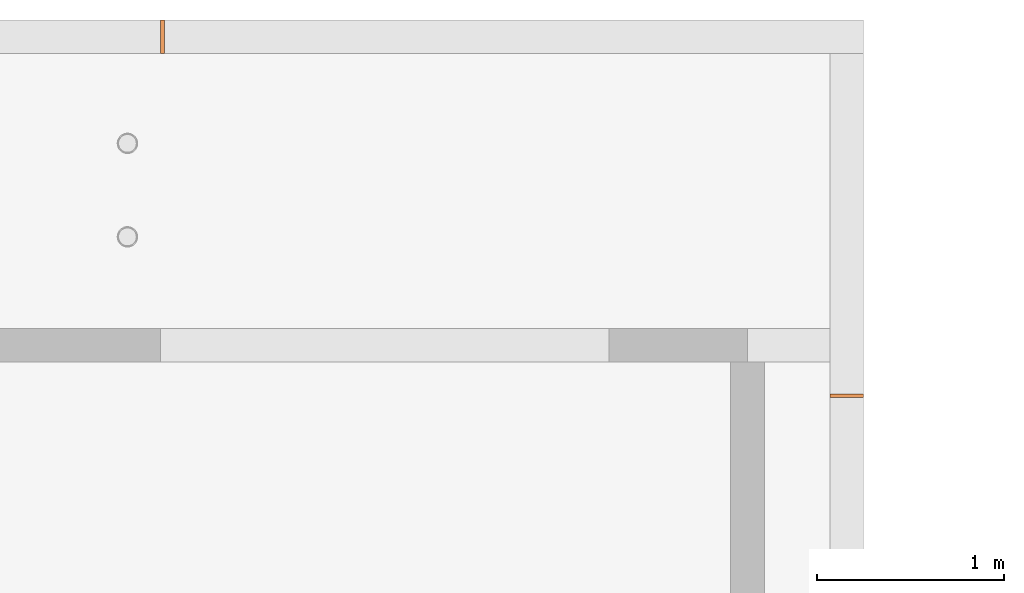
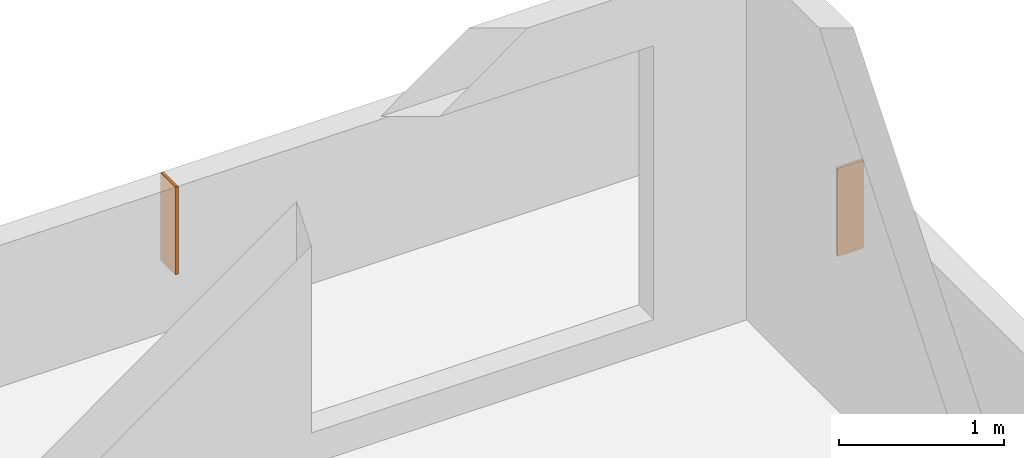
# One storey, part 25 of 28: 2 proxies.
"""IFC2X3 building model written with IfcOpenShell, lengths in centimetres."""

from ifc_helpers import new_model, entity, si_unit, converted_unit, derived_unit, direction, frame, origin, origin_2d_with_axis, place, context, subcontext, project, spatial, rectangle, extrude, source, transform, mapped, material, type_object, type_shapes, element, save


model = new_model("IFC2X3")

# Units and contexts
model_context = context("Model", 3, precision=0.001, world=origin(), true_north=direction((6.12303176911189e-17, 1.0)))
body_context = subcontext(model_context, "Body", "Model", "MODEL_VIEW")
ifc_project = project(units=[si_unit("LENGTHUNIT", "METRE", prefix="CENTI"), si_unit("AREAUNIT", "SQUARE_METRE"), si_unit("VOLUMEUNIT", "CUBIC_METRE"), converted_unit("PLANEANGLEUNIT", "DEGREE", entity("IfcRatioMeasure", 0.0174532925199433), si_unit("PLANEANGLEUNIT", "RADIAN"), dimensions=[0, 0, 0, 0, 0, 0, 0]), si_unit("MASSUNIT", "GRAM", prefix="KILO"), derived_unit("MASSDENSITYUNIT", [(si_unit("MASSUNIT", "GRAM", prefix="KILO"), 1), (si_unit("LENGTHUNIT", "METRE"), -3)]), si_unit("TIMEUNIT", "SECOND"), si_unit("FREQUENCYUNIT", "HERTZ"), si_unit("THERMODYNAMICTEMPERATUREUNIT", "DEGREE_CELSIUS"), derived_unit("THERMALTRANSMITTANCEUNIT", [(si_unit("MASSUNIT", "GRAM", prefix="KILO"), 1), (si_unit("THERMODYNAMICTEMPERATUREUNIT", "KELVIN"), -1), (si_unit("TIMEUNIT", "SECOND"), -3)]), derived_unit("VOLUMETRICFLOWRATEUNIT", [(si_unit("LENGTHUNIT", "METRE"), 3), (si_unit("TIMEUNIT", "SECOND"), -1)]), si_unit("ELECTRICCURRENTUNIT", "AMPERE"), si_unit("ELECTRICVOLTAGEUNIT", "VOLT"), si_unit("POWERUNIT", "WATT"), si_unit("FORCEUNIT", "NEWTON"), si_unit("ILLUMINANCEUNIT", "LUX"), si_unit("LUMINOUSFLUXUNIT", "LUMEN"), si_unit("LUMINOUSINTENSITYUNIT", "CANDELA"), derived_unit("USERDEFINED", [(si_unit("MASSUNIT", "GRAM", prefix="KILO"), -1), (si_unit("LENGTHUNIT", "METRE"), -2), (si_unit("TIMEUNIT", "SECOND"), 3), (si_unit("LUMINOUSFLUXUNIT", "LUMEN"), 1)]), derived_unit("LINEARVELOCITYUNIT", [(si_unit("LENGTHUNIT", "METRE"), 1), (si_unit("TIMEUNIT", "SECOND"), -1)]), si_unit("PRESSUREUNIT", "PASCAL"), derived_unit("USERDEFINED", [(si_unit("LENGTHUNIT", "METRE"), -2), (si_unit("MASSUNIT", "GRAM", prefix="KILO"), 1), (si_unit("TIMEUNIT", "SECOND"), -2)])], contexts=[model_context])

# Site, building, storey
site_placement = place(None, origin())
site = spatial("IfcSite", under=ifc_project, at=site_placement, Name="Default", CompositionType="ELEMENT")
building_placement = place(site_placement, origin())
building = spatial("IfcBuilding", under=site, at=building_placement, Name="CAGE 03", CompositionType="ELEMENT")
storey_placement = place(building_placement, frame((0.0, 0.0, 1420.0)))
storey = spatial("IfcBuildingStorey", under=building, at=storey_placement, Name="R+5", CompositionType="ELEMENT", Elevation=1420.0)

# Proxies
ifc_material = material(Name="BBGO_Résa")
building_element_proxy_type_1 = type_object("IfcBuildingElementProxyType", Name="J.F.", PredefinedType="NOTDEFINED", material=ifc_material)
shared_shape_1 = source(origin(), body_context, "Body", "SweptSolid", [
    extrude(rectangle(XDim=1.99999999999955, YDim=18.0000000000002, at=origin_2d_with_axis()), frame((7917.36582014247, 5284.6606660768, 1460.0)), (0.0, 0.0, 1.0), 64.9999999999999),
])
type_shapes(building_element_proxy_type_1, [shared_shape_1])
proxy_1_placement = place(storey_placement, frame((0.0, 0.0, -1420.0)))
element("IfcBuildingElementProxy", 1, at=proxy_1_placement, inside=storey, type_object=building_element_proxy_type_1, material=ifc_material, Name="BBGO-Résa rect et circ:J.F.", ObjectType="J.F.", context=body_context, shape_type="MappedRepresentation", body=[
    mapped(shared_shape_1, transform((0.0, 0.0, 0.0), scale=1.0)),
])
building_element_proxy_type_2 = type_object("IfcBuildingElementProxyType", Name="J.F.", PredefinedType="NOTDEFINED", material=ifc_material)
shared_shape_2 = source(origin(), body_context, "Body", "SweptSolid", [
    extrude(rectangle(XDim=1.99999999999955, YDim=17.9999999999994, at=origin_2d_with_axis()), frame((8283.36582014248, 5092.66066607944, 1460.0), z_axis=(0.0, 0.0, 1.0), x_axis=(0.0, 1.0, 0.0)), (0.0, 0.0, 1.0), 64.9999999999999),
])
type_shapes(building_element_proxy_type_2, [shared_shape_2])
proxy_2_placement = place(storey_placement, frame((0.0, 0.0, -1420.0)))
element("IfcBuildingElementProxy", 2, at=proxy_2_placement, inside=storey, type_object=building_element_proxy_type_2, material=ifc_material, Name="BBGO-Résa rect et circ:J.F.", ObjectType="J.F.", context=body_context, shape_type="MappedRepresentation", body=[
    mapped(shared_shape_2, transform((0.0, 0.0, 0.0), scale=1.0)),
])

save(model, "model.ifc")
